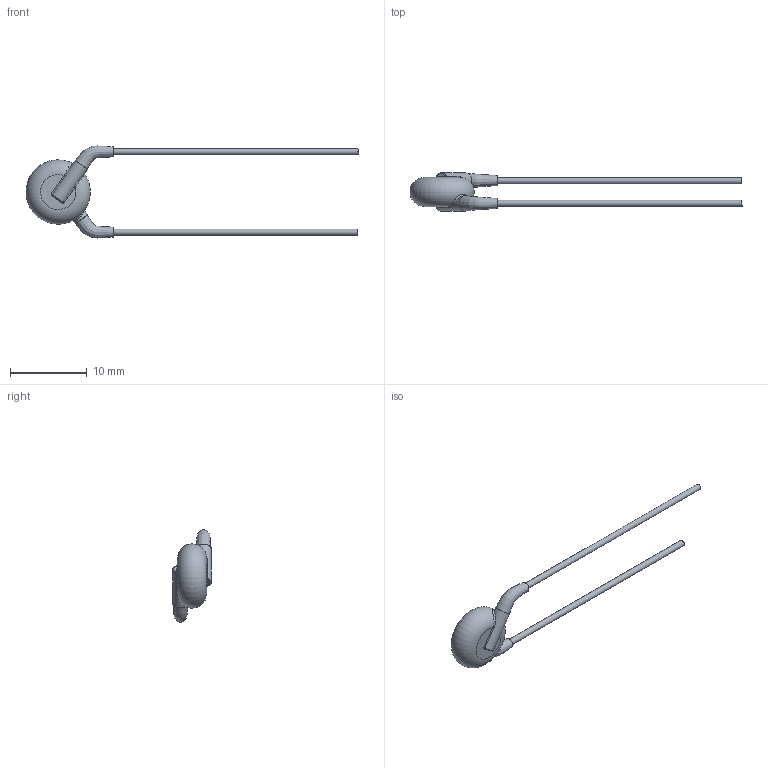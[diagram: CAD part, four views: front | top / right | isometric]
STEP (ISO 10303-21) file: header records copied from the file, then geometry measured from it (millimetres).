
FILE_DESCRIPTION(/* description */ (''),/* implementation_level */ '2;1');
FILE_NAME(/* name */ 'I:\Marketing\M6t1\3D-Models\Zchng-Werk-3\Upload for homepage\Ceramite\C0G\440LQ10-R\440LQ10-R.stp',/* time_stamp */ '2016-11-10T13:16:38+01:00',/* author */ ('sheinrich'),/* organization */ (''),/* preprocessor_version */ 'ST-DEVELOPER v16.1',/* originating_system */ 'Autodesk Inventor 2016',/* authorisation */ '');
FILE_SCHEMA (('AUTOMOTIVE_DESIGN { 1 0 10303 214 3 1 1 }'));
Length unit declared in the file: millimetre
Products named in the file (1): 440LQ10-R
Bounding box: 43.4 x 5 x 12.03 mm (x, y, z)
Volume: 242.5 mm3; surface area: 394.8 mm2
Topology: 1 solids, 1 shells, 37 faces, 80 edges, 43 vertices
Faces by surface type: bspline 12, cylinder 10, plane 8, torus 7
Full cylindrical faces by diameter (mm): 0.81 x2, 2 x2
Entity records: 1866 total; most frequent: CARTESIAN_POINT 1115, ORIENTED_EDGE 136, DIRECTION 128, EDGE_CURVE 68, AXIS2_PLACEMENT_3D 58, EDGE_LOOP 44, VERTEX_POINT 40, STYLED_ITEM 38
